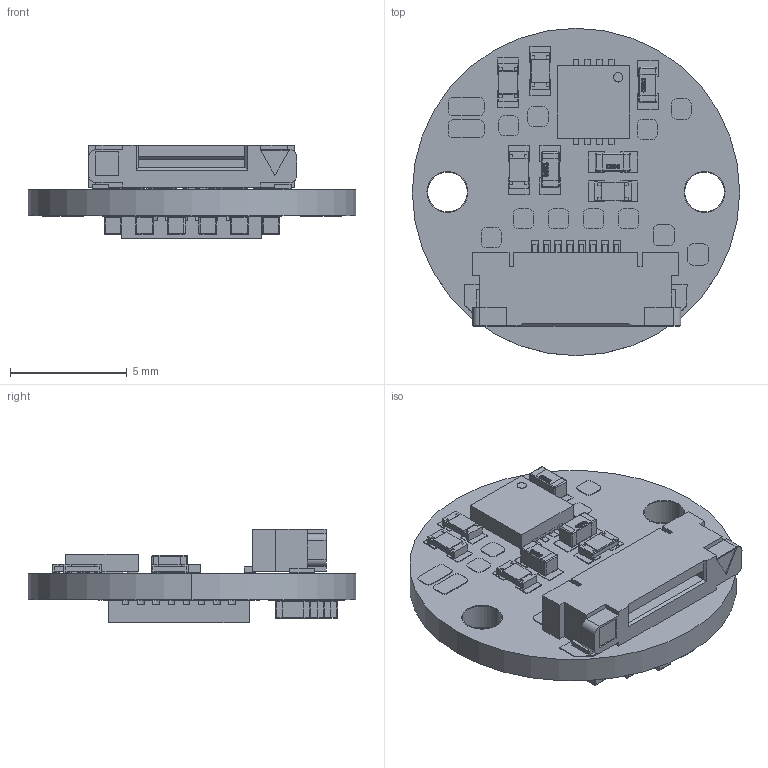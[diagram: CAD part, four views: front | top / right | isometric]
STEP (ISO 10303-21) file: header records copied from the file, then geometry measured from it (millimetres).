
FILE_DESCRIPTION (( 'STEP AP214' ), '1' );
FILE_NAME ('MODM377.STEP', '2019-12-13T12:42:41', ( '' ), ( '' ), 'SwSTEP 2.0', 'SolidWorks 2016', '' );
FILE_SCHEMA (( 'AUTOMOTIVE_DESIGN' ));
Length unit declared in the file: millimetre
Products named in the file (1): MODM377
Bounding box: 14 x 14 x 4.01 mm (x, y, z)
Volume: 266.1 mm3; surface area: 871.2 mm2
Topology: 131 solids, 131 shells, 2871 faces, 7401 edges, 4800 vertices
Faces by surface type: plane 2072, bspline 540, cylinder 259
Entity records: 143082 total; most frequent: CARTESIAN_POINT 44197, ORIENTED_EDGE 14658, DIRECTION 11287, EDGE_CURVE 7329, VECTOR 5875, LINE 5875, VERTEX_POINT 4800, UNCERTAINTY_MEASURE_WITH_UNIT 3004
